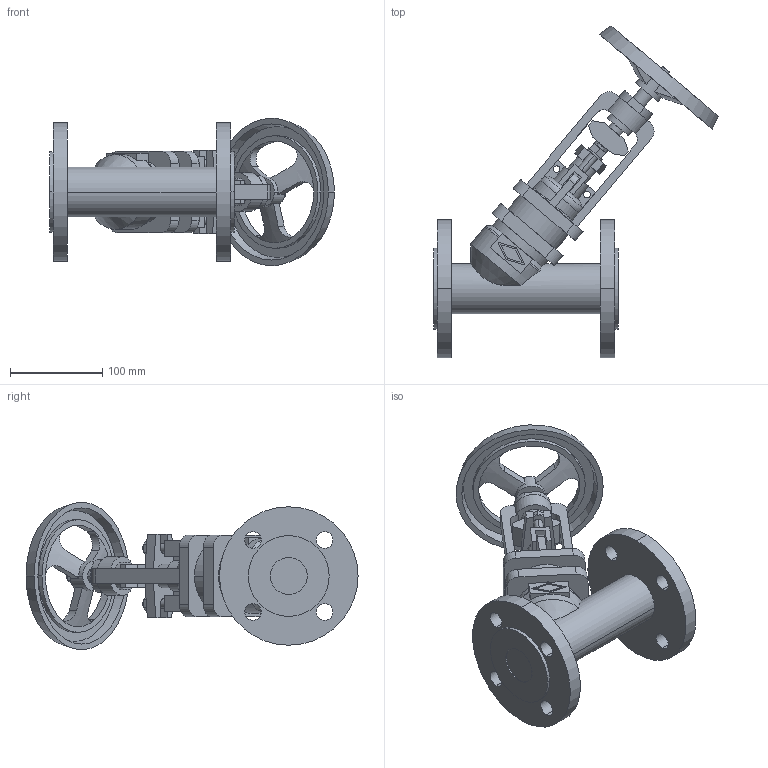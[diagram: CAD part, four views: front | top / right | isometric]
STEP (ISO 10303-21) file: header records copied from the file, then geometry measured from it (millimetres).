
FILE_DESCRIPTION(('OneSpaceDesigner STEP Export'),'2;1');
FILE_NAME('c000004405.stp','2010-05-10T 9:28:07',(''),(''),'OneSpace Designer STEP processor for AP214 (Solid Model)','OneSpace Modeling 15.50B 03-Nov-2007 (C) CoCreate Software GmbH','');
FILE_SCHEMA(('AUTOMOTIVE_DESIGN { 1 0 10303 214 1 1 1 1 }'));
Length unit declared in the file: millimetre
Products named in the file (1): 1
Bounding box: 308.62 x 359.7 x 160 mm (x, y, z)
Volume: 1791997.2 mm3; surface area: 251072.8 mm2
Topology: 1 solids, 1 shells, 298 faces, 787 edges, 516 vertices
Faces by surface type: plane 148, cylinder 109, cone 22, torus 19
Entity records: 11616 total; most frequent: CARTESIAN_POINT 2320, ORIENTED_EDGE 1574, DIRECTION 1264, EDGE_CURVE 787, VERTEX_POINT 516, VECTOR 428, LINE 428, AXIS2_PLACEMENT_3D 418
